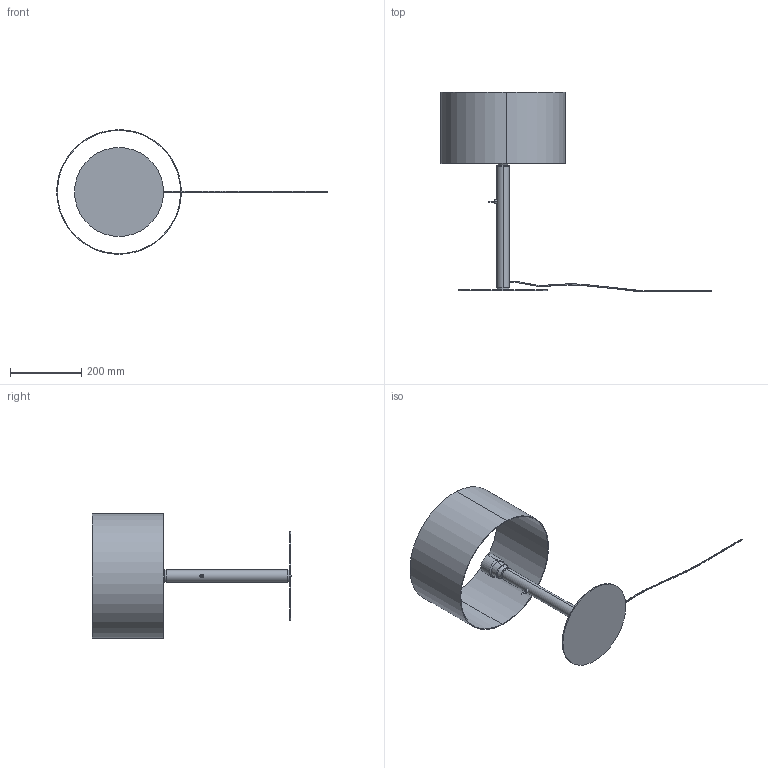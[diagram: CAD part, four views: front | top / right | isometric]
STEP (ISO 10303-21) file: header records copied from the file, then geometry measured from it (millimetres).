
FILE_DESCRIPTION (( 'STEP AP214' ), '1' );
FILE_NAME ('COCO_S1342.STEP', '2024-12-18T16:28:44', ( '' ), ( '' ), 'SwSTEP 2.0', 'SolidWorks 2018', '' );
FILE_SCHEMA (( 'AUTOMOTIVE_DESIGN' ));
Length unit declared in the file: millimetre
Products named in the file (4): sobremesa; COCO_S1342; pantalla 40x24; portalámparas
Assembly tree (3 placements, depth 2):
  COCO_S1342
    sobremesa
    portalámparas
    pantalla 40x24
Bounding box: 759.3 x 560.27 x 349.51 mm (x, y, z)
Volume: 1047248.6 mm3; surface area: 610235.1 mm2
Topology: 9 solids, 9 shells, 57 faces, 98 edges, 62 vertices
Faces by surface type: cylinder 22, plane 21, torus 8, cone 4, bspline 2
Entity records: 1770 total; most frequent: CARTESIAN_POINT 411, DIRECTION 288, ORIENTED_EDGE 196, AXIS2_PLACEMENT_3D 131, EDGE_CURVE 98, CIRCLE 70, EDGE_LOOP 62, VERTEX_POINT 62
